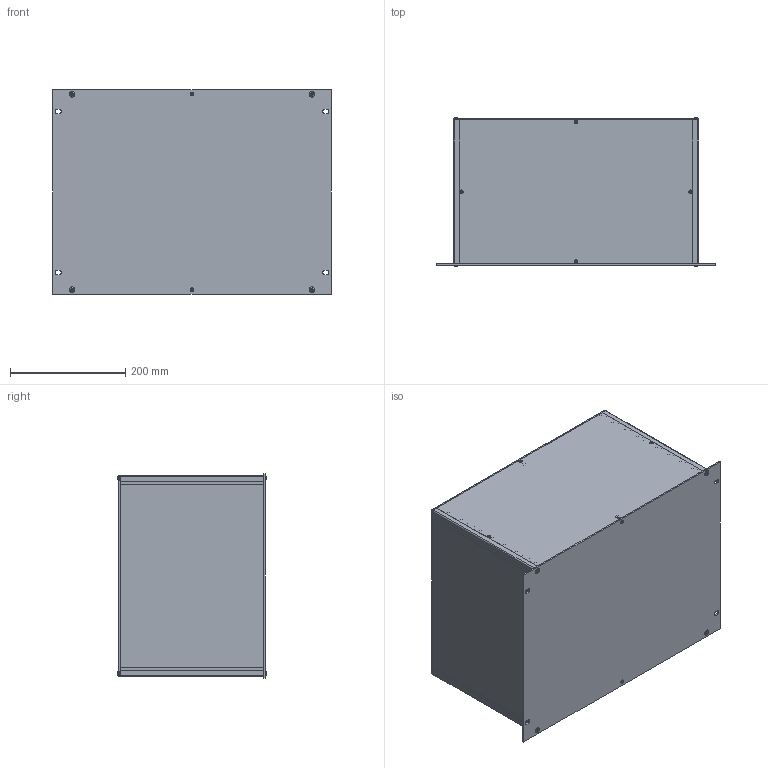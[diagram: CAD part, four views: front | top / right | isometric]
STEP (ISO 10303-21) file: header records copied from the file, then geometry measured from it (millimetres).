
FILE_DESCRIPTION(/* description */ (''),/* implementation_level */ '2;1');
FILE_NAME(/* name */ '//diskstation/Kunden/Gehäuse/Gehäuse/8HE/step/19 Zoll 8HE Rack Gehäuse Tiefe-250.step',/* time_stamp */ '2022-02-17T17:17:06+01:00',/* author */ (''),/* organization */ (''),/* preprocessor_version */ 'ST-DEVELOPER v18.1',/* originating_system */ 'Autodesk Translation Framework v10.10.0.1391',/* authorisation */ '');
FILE_SCHEMA (('AUTOMOTIVE_DESIGN { 1 0 10303 214 3 1 1 }'));
Length unit declared in the file: millimetre
Products named in the file (28): 8HE Gehäuse mit parametern; Gehäuse; Gehäuseprofil 1 unten links; Gehäuseprofil 2 oben rechts; Gehäuseprofil 1 unten rechts; Gehäuseprofil 2 oben links; Rückplatte; Deckel; Seitenteil links; Seitenteil rechts; Bodenplatte; Montageklotz Front/Deckel; Montageklotz Front/Boden; Montageklotz Rück/Deckel; Montageklotz Rück/Boden; Gewindestreifen; Frontplatte; Schrauben M5; Schraube Front; Schraube Front (1); Schraube Front (2); Schraube Front (3); Schraube Rück (1); Schraube Rück; Schraube Rück (2); Schraube Rück (3); Schrauben M3; HI_Senkschraube DIN 965 A v2 M3x5 24677.030.005(High)
Assembly tree (37 placements, depth 3):
  8HE Gehäuse mit parametern
    Gehäuse
      Gehäuseprofil 1 unten links
      Gehäuseprofil 2 oben rechts
      Gehäuseprofil 1 unten rechts
      Gehäuseprofil 2 oben links
      Rückplatte
      Deckel
      Seitenteil links
      Seitenteil rechts
      Bodenplatte
      Montageklotz Front/Deckel
      Montageklotz Front/Boden
      Montageklotz Rück/Deckel
      Montageklotz Rück/Boden
      Gewindestreifen  x2
    Frontplatte
    Schrauben M5
      Schraube Front
      Schraube Front (1)
      Schraube Front (2)
      Schraube Front (3)
      Schraube Rück (1)
      Schraube Rück
      Schraube Rück (2)
      Schraube Rück (3)
    Schrauben M3
      HI_Senkschraube DIN 965 A v2 M3x5 24677.030.005(High)  x10
Bounding box: 483 x 258.2 x 354.8 mm (x, y, z)
Volume: 1772200.7 mm3; surface area: 1502162.9 mm2
Topology: 34 solids, 34 shells, 854 faces, 2076 edges, 1290 vertices
Faces by surface type: plane 342, cylinder 332, cone 164, torus 8, bspline 8
Full cylindrical faces by diameter (mm): 2.529 x90, 3 x10, 3.2 x10, 4.234 x40, 5 x8, 5.2 x4, 5.3 x8, 5.6 x10, 9.5 x8
Entity records: 16845 total; most frequent: CARTESIAN_POINT 3078, DIRECTION 2820, ORIENTED_EDGE 2490, EDGE_CURVE 1245, AXIS2_PLACEMENT_3D 1060, VERTEX_POINT 778, EDGE_LOOP 731, LINE 700
